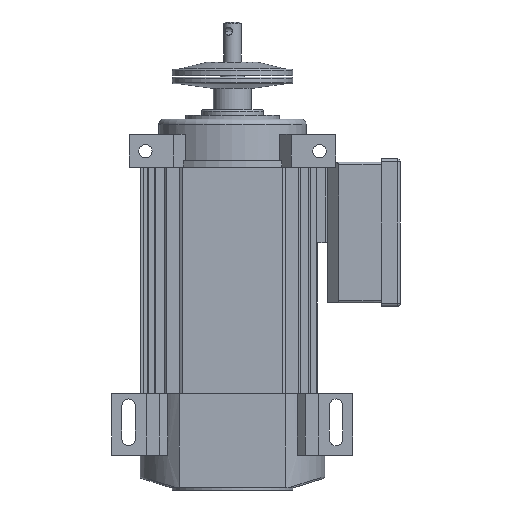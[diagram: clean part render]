
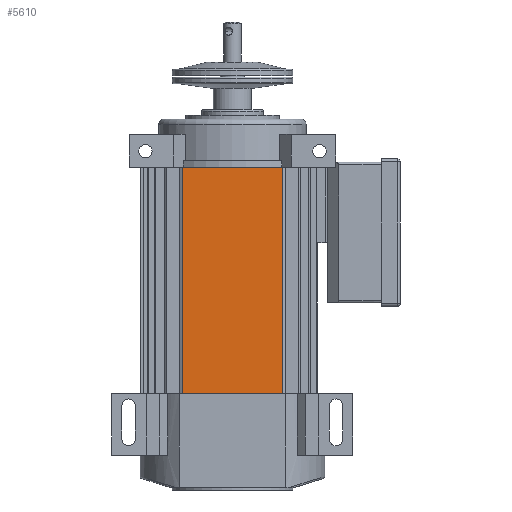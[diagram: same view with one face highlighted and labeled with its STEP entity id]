
A CAD part, front view. The second image highlights one B-rep face of the part: STEP entity #5610.
In plain terms, the highlighted planar face has unit normal (0, -1, 0).
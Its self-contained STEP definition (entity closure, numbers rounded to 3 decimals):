
#294 = VERTEX_POINT ( 'NONE', #1712 ) ;
#453 = VERTEX_POINT ( 'NONE', #1694 ) ;
#471 = VERTEX_POINT ( 'NONE', #1947 ) ;
#1279 = ORIENTED_EDGE ( 'NONE', *, *, #8314, .T. ) ;
#1280 = ORIENTED_EDGE ( 'NONE', *, *, #8461, .F. ) ;
#1347 = ORIENTED_EDGE ( 'NONE', *, *, #8437, .T. ) ;
#1349 = ORIENTED_EDGE ( 'NONE', *, *, #8315, .T. ) ;
#1694 = CARTESIAN_POINT ( 'NONE',  ( -37.376, -58., 169. ) ) ;
#1712 = CARTESIAN_POINT ( 'NONE',  ( 37.376, -58., 0. ) ) ;
#1947 = CARTESIAN_POINT ( 'NONE',  ( 37.376, -58., 169. ) ) ;
#2401 = CARTESIAN_POINT ( 'NONE',  ( -37.376, -58., 0. ) ) ;
#2985 = CARTESIAN_POINT ( 'NONE',  ( -76., -58., 169. ) ) ;
#2986 = DIRECTION ( 'NONE',  ( 1., 0., 0. ) ) ;
#3536 = AXIS2_PLACEMENT_3D ( 'NONE', #7339, #7346, #7345 ) ;
#3601 = LINE ( 'NONE', #4756, #3603 ) ;
#3603 = VECTOR ( 'NONE', #4757, 1000. ) ;
#3636 = LINE ( 'NONE', #2985, #3639 ) ;
#3639 = VECTOR ( 'NONE', #2986, 1000. ) ;
#4325 = CARTESIAN_POINT ( 'NONE',  ( 37.376, -58., 0. ) ) ;
#4326 = CARTESIAN_POINT ( 'NONE',  ( -37.376, -58., 0. ) ) ;
#4334 = DIRECTION ( 'NONE',  ( 0., 0., -1. ) ) ;
#4336 = DIRECTION ( 'NONE',  ( 0., 0., 1. ) ) ;
#4756 = CARTESIAN_POINT ( 'NONE',  ( -76., -58., 0. ) ) ;
#4757 = DIRECTION ( 'NONE',  ( 1., 0., 0. ) ) ;
#4959 = FACE_OUTER_BOUND ( 'NONE', #6022, .T. ) ;
#5610 = ADVANCED_FACE ( 'NONE', ( #4959 ), #7343, .T. ) ;
#5968 = VERTEX_POINT ( 'NONE', #2401 ) ;
#6022 = EDGE_LOOP ( 'NONE', ( #1347, #1349, #1280, #1279 ) ) ;
#7339 = CARTESIAN_POINT ( 'NONE',  ( -76., -58., 0. ) ) ;
#7343 = PLANE ( 'NONE',  #3536 ) ;
#7345 = DIRECTION ( 'NONE',  ( 0., 0., -1. ) ) ;
#7346 = DIRECTION ( 'NONE',  ( 0., -1., 0. ) ) ;
#8314 = EDGE_CURVE ( 'NONE', #453, #5968, #9623, .T. ) ;
#8315 = EDGE_CURVE ( 'NONE', #294, #471, #9631, .T. ) ;
#8437 = EDGE_CURVE ( 'NONE', #5968, #294, #3601, .T. ) ;
#8461 = EDGE_CURVE ( 'NONE', #453, #471, #3636, .T. ) ;
#9623 = LINE ( 'NONE', #4326, #9636 ) ;
#9631 = LINE ( 'NONE', #4325, #9639 ) ;
#9636 = VECTOR ( 'NONE', #4334, 1000. ) ;
#9639 = VECTOR ( 'NONE', #4336, 1000. ) ;
